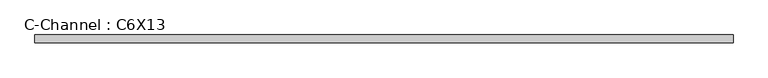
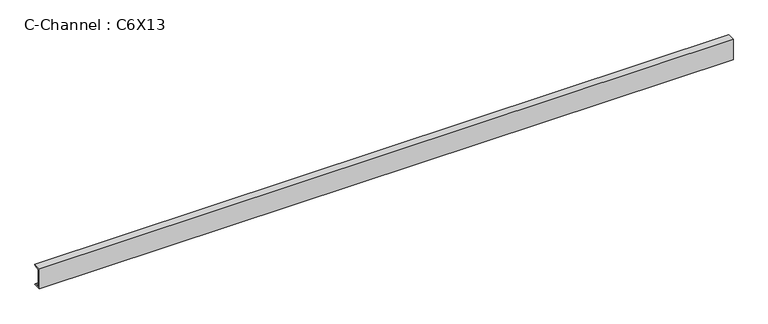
"""IFC4 building model written with IfcOpenShell, lengths in millimetres: beam geometry, C-Channel : C6X13."""

from ifc_helpers import new_model, si_unit, point, frame, frame_2d, origin, place, context, project, spatial, polyline, circle_curve, trimmed, segment, composite_curve, outline, extrude, source, transform, mapped, element, save


def c_channel_c6x13_f35f4d1e(model_context):
    return source(origin(), model_context, "Body", "SweptSolid", [
        extrude(outline(composite_curve([segment(polyline([(-13.0556, 76.2), (41.8084, 76.2)]), True, "CONTINUOUS"), segment(trimmed(circle_curve(frame_2d((33.0962, 76.2)), 8.7122), [point((41.8084, 76.2))], [point((33.0962, 67.4878))], False, "CARTESIAN"), True, "CONTINUOUS"), segment(polyline([(33.0962, 67.4878), (-1.9558, 61.9361086), (-1.9558, -61.9361086), (33.0962, -67.4878)]), True, "CONTINUOUS"), segment(trimmed(circle_curve(frame_2d((33.0962, -76.2)), 8.7122), [point((33.0962, -67.4878))], [point((41.8084, -76.2))], False, "CARTESIAN"), True, "CONTINUOUS"), segment(polyline([(41.8084, -76.2), (-13.0556, -76.2), (-13.0556, 76.2)]), True, "CONTINUOUS")], self_intersect=False)), frame((-2434.3170578, 0.0, 0.0), z_axis=(1.0, 0.0, 0.0), x_axis=(0.0, 1.0, 0.0)), (0.0, 0.0, 1.0), 4934.3170592),
    ])


if __name__ == "__main__":
    model = new_model("IFC4")
    model_context = context("Model", 3, world=origin())
    ifc_project = project(units=[si_unit("LENGTHUNIT", "METRE", prefix="MILLI")], contexts=[model_context])
    site = spatial("IfcSite", under=ifc_project)
    building = spatial("IfcBuilding", under=site)
    placement = place(None, origin())
    c_channel_c6x13_shape = c_channel_c6x13_f35f4d1e(model_context)
    element("IfcBeam", 1, ObjectType="C-Channel : C6X13", at=placement, inside=building, context=model_context, shape_type="MappedRepresentation", body=[
        mapped(c_channel_c6x13_shape, transform((0.0, 0.0, 0.0), x_axis=(1.0, 0.0, 0.0), y_axis=(0.0, 1.0, 0.0), z_axis=(0.0, 0.0, 1.0))),
    ])
    save(model, "model.ifc")
